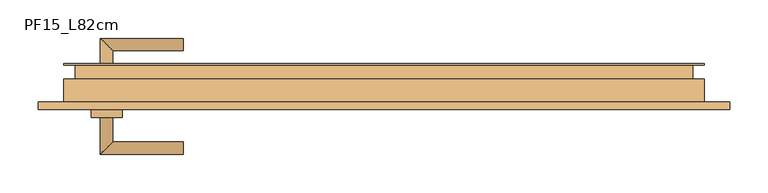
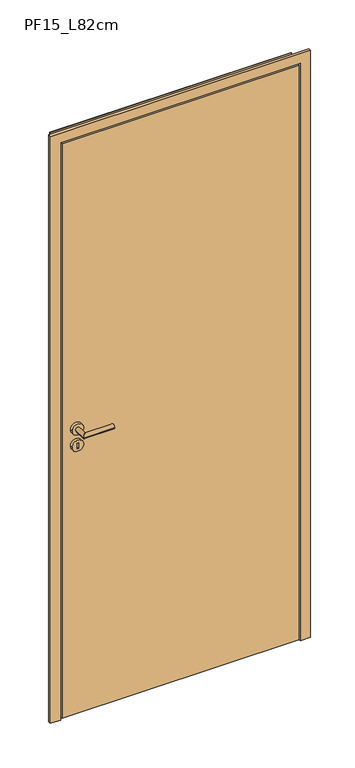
"""IFC4 building model written with IfcOpenShell, lengths in millimetres: door geometry, FDE_PF15_PF16_PF17_PortaemChapadeFerro : PF15_L82cm."""

from ifc_helpers import new_model, si_unit, point, frame, frame_2d, origin, place, context, project, spatial, polyline, circle_curve, ellipse_curve, trimmed, segment, composite_curve, outline, extrude, faceted_brep, source, transform, mapped, element, save
from ifc_brep_helpers import plane_surface, cylinder_surface, advanced_brep


def pf15_l82cm_686caa18(model_context):
    return source(origin(), model_context, "Body", "SolidModel", [
        extrude(outline(composite_curve([segment(trimmed(circle_curve(frame_2d((989.994466, -361.0)), 20.0), [point((989.994466, -381.0))], [point((989.994466, -341.0))], False, "CARTESIAN"), True, "CONTINUOUS"), segment(trimmed(circle_curve(frame_2d((989.994466, -361.0)), 20.0), [point((989.994466, -341.0))], [point((989.994466, -381.0))], False, "CARTESIAN"), True, "CONTINUOUS")], self_intersect=False), holes=[polyline([(1000.1515067, -358.7045566), (980.1515067, -358.7045566), (980.1515067, -363.7045566), (1000.1515067, -363.7045566), (1000.1515067, -358.7045566)])]), frame((0.0, -75.0, 0.0), z_axis=(0.0, 1.0, 0.0), x_axis=(0.0, 0.0, 1.0)), (0.0, 0.0, 1.0), 10.0),
        advanced_brep(
        [(-353.2045566, -75.0, 1050.0), (-369.2045566, -75.0, 1050.0), (-353.2045566, -107.0, 1050.0), (-369.2045566, -123.0, 1050.0), (-261.2045566, -107.0, 1050.0), (-261.2045566, -123.0, 1050.0)],
        [
            (0, 1, circle_curve(frame((-361.2045566, -75.0, 1050.0), z_axis=(0.0, 1.0, 0.0), x_axis=(-1.0, 0.0, 0.0)), 8.0)),
            (1, 0, circle_curve(frame((-361.2045566, -75.0, 1050.0), z_axis=(0.0, 1.0, 0.0), x_axis=(-1.0, 0.0, 0.0)), 8.0)),
            (0, 2),
            (2, 3, ellipse_curve(frame((-361.2045566, -115.0, 1050.0), z_axis=(-0.707106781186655, 0.7071067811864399, 0.0), x_axis=(0.7071067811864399, 0.7071067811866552, 0.0)), 11.3137085, 8.0)),
            (3, 1),
            (3, 2, ellipse_curve(frame((-361.2045566, -115.0, 1050.0), z_axis=(-0.707106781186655, 0.7071067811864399, 0.0), x_axis=(0.7071067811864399, 0.7071067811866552, 0.0)), 11.3137085, 8.0)),
            (4, 5, circle_curve(frame((-261.2045566, -115.0, 1050.0), z_axis=(1.0, 0.0, 0.0), x_axis=(0.0, -1.0, 0.0)), 8.0)),
            (5, 4, circle_curve(frame((-261.2045566, -115.0, 1050.0), z_axis=(1.0, 0.0, 0.0), x_axis=(0.0, -1.0, 0.0)), 8.0)),
            (2, 4),
            (5, 3),
        ],
        [
            plane_surface(frame((-361.2045566, -75.0, 1050.0), z_axis=(0.0, 1.0, 0.0), x_axis=(0.0, 0.0, 1.0))),
            cylinder_surface(frame((-361.2045566, -75.0, 1050.0), z_axis=(0.0, 1.0, 0.0), x_axis=(-1.0, 0.0, 0.0)), 8.0),
            plane_surface(frame((-261.2045566, -115.0, 1050.0), z_axis=(1.0, 0.0, 0.0), x_axis=(0.0, 0.0, 1.0))),
            cylinder_surface(frame((-361.2045566, -115.0, 1050.0), z_axis=(-1.0, 0.0, 0.0), x_axis=(0.0, -1.0, 0.0)), 8.0),
        ],
        [
            (0, [[1, 2]]),
            (1, [[3, 4, 5, -1]]),
            (1, [[-5, 6, -3, -2]]),
            (2, [[7, 8]]),
            (3, [[9, -8, 10, -4]]),
            (3, [[-10, -7, -9, -6]]),
        ],
    ),
        extrude(outline(composite_curve([segment(trimmed(circle_curve(frame_2d((1050.0, -361.0)), 20.0), [point((1050.0, -381.0))], [point((1050.0, -341.0))], False, "CARTESIAN"), True, "CONTINUOUS"), segment(trimmed(circle_curve(frame_2d((1050.0, -361.0)), 20.0), [point((1050.0, -341.0))], [point((1050.0, -381.0))], False, "CARTESIAN"), True, "CONTINUOUS")], self_intersect=False)), frame((0.0, -75.0, 0.0), z_axis=(0.0, 1.0, 0.0), x_axis=(0.0, 0.0, 1.0)), (0.0, 0.0, 1.0), 10.0),
        extrude(outline(composite_curve([segment(trimmed(circle_curve(frame_2d((989.994466, -361.0)), 20.0), [point((989.994466, -381.0))], [point((989.994466, -341.0))], False, "CARTESIAN"), True, "CONTINUOUS"), segment(trimmed(circle_curve(frame_2d((989.994466, -361.0)), 20.0), [point((989.994466, -341.0))], [point((989.994466, -381.0))], False, "CARTESIAN"), True, "CONTINUOUS")], self_intersect=False), holes=[polyline([(1000.1515067, -358.7045566), (980.1515067, -358.7045566), (980.1515067, -363.7045566), (1000.1515067, -363.7045566), (1000.1515067, -358.7045566)])]), frame((0.0, -30.0, 0.0), z_axis=(0.0, 1.0, 0.0), x_axis=(0.0, 0.0, 1.0)), (0.0, 0.0, 1.0), 10.0),
        advanced_brep(
        [(-369.2045566, -20.0, 1050.0), (-353.2045566, -20.0, 1050.0), (-353.2045566, 12.0, 1050.0), (-369.2045566, 28.0, 1050.0), (-261.2045566, 28.0, 1050.0), (-261.2045566, 12.0, 1050.0)],
        [
            (0, 1, circle_curve(frame((-361.2045566, -20.0, 1050.0), z_axis=(0.0, -1.0, 0.0), x_axis=(1.0, 0.0, 0.0)), 8.0)),
            (1, 0, circle_curve(frame((-361.2045566, -20.0, 1050.0), z_axis=(0.0, -1.0, 0.0), x_axis=(1.0, 0.0, 0.0)), 8.0)),
            (1, 2),
            (2, 3, ellipse_curve(frame((-361.2045566, 20.0, 1050.0), z_axis=(-0.7071067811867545, -0.7071067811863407, 0.0), x_axis=(0.7071067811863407, -0.7071067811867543, 0.0)), 11.3137085, 8.0)),
            (3, 0),
            (3, 2, ellipse_curve(frame((-361.2045566, 20.0, 1050.0), z_axis=(-0.7071067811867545, -0.7071067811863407, 0.0), x_axis=(0.7071067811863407, -0.7071067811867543, 0.0)), 11.3137085, 8.0)),
            (4, 5, circle_curve(frame((-261.2045566, 20.0, 1050.0), z_axis=(1.0, 0.0, 0.0), x_axis=(0.0, -1.0, 0.0)), 8.0)),
            (5, 4, circle_curve(frame((-261.2045566, 20.0, 1050.0), z_axis=(1.0, 0.0, 0.0), x_axis=(0.0, -1.0, 0.0)), 8.0)),
            (2, 5),
            (4, 3),
        ],
        [
            plane_surface(frame((-361.2045566, -20.0, 1050.0), z_axis=(0.0, -1.0, 0.0), x_axis=(0.0, 0.0, 1.0))),
            cylinder_surface(frame((-361.2045566, -20.0, 1050.0), z_axis=(0.0, -1.0, 0.0), x_axis=(1.0, 0.0, 0.0)), 8.0),
            plane_surface(frame((-261.2045566, 20.0, 1050.0), z_axis=(1.0, 0.0, 0.0), x_axis=(0.0, 0.0, 1.0))),
            cylinder_surface(frame((-361.2045566, 20.0, 1050.0), z_axis=(-1.0, 0.0, 0.0), x_axis=(0.0, -1.0, 0.0)), 8.0),
        ],
        [
            (0, [[1, 2]]),
            (1, [[3, 4, 5, -2]]),
            (1, [[-5, 6, -3, -1]]),
            (2, [[7, 8]]),
            (3, [[9, -7, 10, -4]]),
            (3, [[-10, -8, -9, -6]]),
        ],
    ),
        extrude(outline(composite_curve([segment(trimmed(circle_curve(frame_2d((1050.0, -361.0)), 20.0), [point((1050.0, -381.0))], [point((1050.0, -341.0))], False, "CARTESIAN"), True, "CONTINUOUS"), segment(trimmed(circle_curve(frame_2d((1050.0, -361.0)), 20.0), [point((1050.0, -341.0))], [point((1050.0, -381.0))], False, "CARTESIAN"), True, "CONTINUOUS")], self_intersect=False)), frame((0.0, -30.0, 0.0), z_axis=(0.0, 1.0, 0.0), x_axis=(0.0, 0.0, 1.0)), (0.0, 0.0, 1.0), 10.0),
        extrude(outline(polyline([(410.0, -65.0), (-410.0, -65.0), (-410.0, -30.0), (410.0, -30.0), (410.0, -65.0)])), frame((0.0, 0.0, 5.0), z_axis=(0.0, 0.0, 1.0), x_axis=(1.0, 0.0, 0.0)), (0.0, 0.0, 1.0), 2100.0),
        faceted_brep([(450.0, -65.0, 0.0), (415.0, -65.0, 0.0), (415.0, -27.0, 0.0), (400.0, -27.0, 0.0), (400.0, -5.0, 0.0), (417.0, -5.0, 0.0), (417.0, -7.0, 0.0), (402.0, -7.0, 0.0), (402.0, -25.0, 0.0), (417.0, -25.0, 0.0), (417.0, -63.0, 0.0), (448.0, -63.0, 0.0), (448.0, -55.0, 0.0), (450.0, -55.0, 0.0), (450.0, -55.0, 2145.0), (450.0, -65.0, 2145.0), (448.0, -55.0, 2143.0), (-448.0, -55.0, 2143.0), (-448.0, -55.0, 0.0), (-450.0, -55.0, 0.0), (-450.0, -55.0, 2145.0), (448.0, -63.0, 2143.0), (417.0, -63.0, 2112.0), (-417.0, -63.0, 2112.0), (-417.0, -63.0, 0.0), (-448.0, -63.0, 0.0), (-448.0, -63.0, 2143.0), (417.0, -25.0, 2112.0), (402.0, -25.0, 2097.0), (-402.0, -25.0, 2097.0), (-402.0, -25.0, 0.0), (-417.0, -25.0, 0.0), (-417.0, -25.0, 2112.0), (402.0, -7.0, 2097.0), (417.0, -7.0, 2112.0), (-417.0, -7.0, 2112.0), (-417.0, -7.0, 0.0), (-402.0, -7.0, 0.0), (-402.0, -7.0, 2097.0), (417.0, -5.0, 2112.0), (400.0, -5.0, 2095.0), (-400.0, -5.0, 2095.0), (-400.0, -5.0, 0.0), (-417.0, -5.0, 0.0), (-417.0, -5.0, 2112.0), (400.0, -27.0, 2095.0), (415.0, -27.0, 2110.0), (-415.0, -27.0, 2110.0), (-415.0, -27.0, 0.0), (-400.0, -27.0, 0.0), (-400.0, -27.0, 2095.0), (415.0, -65.0, 2110.0), (-450.0, -65.0, 2145.0), (-450.0, -65.0, 0.0), (-415.0, -65.0, 0.0), (-415.0, -65.0, 2110.0)], [[[0, 1, 2, 3, 4, 5, 6, 7, 8, 9, 10, 11, 12, 13]], [[13, 14, 15, 0]], [[12, 16, 17, 18, 19, 20, 14, 13]], [[11, 21, 16, 12]], [[10, 22, 23, 24, 25, 26, 21, 11]], [[9, 27, 22, 10]], [[8, 28, 29, 30, 31, 32, 27, 9]], [[7, 33, 28, 8]], [[6, 34, 35, 36, 37, 38, 33, 7]], [[5, 39, 34, 6]], [[4, 40, 41, 42, 43, 44, 39, 5]], [[3, 45, 40, 4]], [[2, 46, 47, 48, 49, 50, 45, 3]], [[1, 51, 46, 2]], [[0, 15, 52, 53, 54, 55, 51, 1]], [[20, 19, 53, 52]], [[53, 19, 18, 25, 24, 31, 30, 37, 36, 43, 42, 49, 48, 54]], [[26, 25, 18, 17]], [[32, 31, 24, 23]], [[38, 37, 30, 29]], [[44, 43, 36, 35]], [[50, 49, 42, 41]], [[55, 54, 48, 47]], [[14, 20, 52, 15]], [[21, 26, 17, 16]], [[27, 32, 23, 22]], [[33, 38, 29, 28]], [[39, 44, 35, 34]], [[45, 50, 41, 40]], [[51, 55, 47, 46]]]),
    ])


if __name__ == "__main__":
    model = new_model("IFC4")
    model_context = context("Model", 3, world=origin())
    ifc_project = project(units=[si_unit("LENGTHUNIT", "METRE", prefix="MILLI")], contexts=[model_context])
    site = spatial("IfcSite", under=ifc_project)
    building = spatial("IfcBuilding", under=site)
    placement = place(None, origin())
    pf15_l82cm_shape = pf15_l82cm_686caa18(model_context)
    element("IfcDoor", 1, ObjectType="FDE_PF15_PF16_PF17_PortaemChapadeFerro : PF15_L82cm", at=placement, inside=building, context=model_context, shape_type="MappedRepresentation", body=[
        mapped(pf15_l82cm_shape, transform((0.0, 0.0, 0.0), x_axis=(1.0, 0.0, 0.0), y_axis=(0.0, 1.0, 0.0), z_axis=(0.0, 0.0, 1.0))),
    ])
    save(model, "model.ifc")
